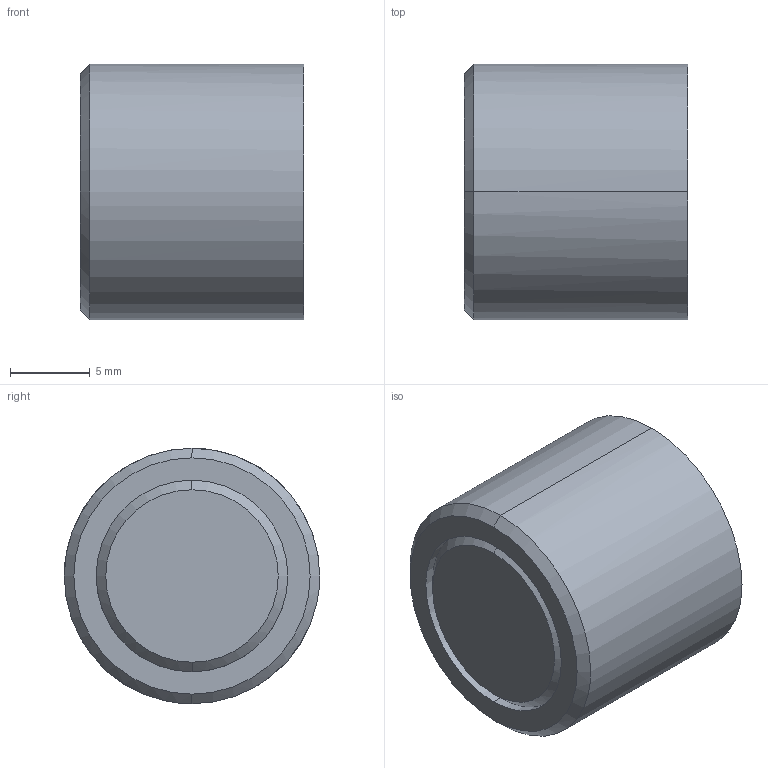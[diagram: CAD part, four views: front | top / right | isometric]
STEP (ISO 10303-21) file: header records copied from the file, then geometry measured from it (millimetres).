
FILE_DESCRIPTION(('CATIA V5 STEP Exchange'),'2;1');
FILE_NAME('C:\Users\Utente\Desktop\IO LAVORO\3D X SITO CF\X SITO\PLASTICA\D375\D375-16-A-DM-FA.stp','2021-03-26T14:43:45+00:00',('none'),('none'),'CATIA Version 5 Release 20 GA (IN-10)','CATIA V5 STEP AP203','none');
FILE_SCHEMA(('CONFIG_CONTROL_DESIGN'));
Length unit declared in the file: millimetre
Products named in the file (1): D375-16-A-DM-FA
Assembly tree (2 placements, depth 2):
  D375-16-A-DM-FA
    #58
    #6453
Bounding box: 14 x 16 x 16 mm (x, y, z)
Volume: 2719.1 mm3; surface area: 2154.1 mm2
Topology: 2 solids, 2 shells, 216 faces, 594 edges, 408 vertices
Faces by surface type: plane 135, cylinder 77, cone 4
Entity records: 7490 total; most frequent: CARTESIAN_POINT 2009, ORIENTED_EDGE 1188, DIRECTION 958, EDGE_CURVE 594, VERTEX_POINT 408, VECTOR 396, LINE 396, AXIS2_PLACEMENT_3D 343
